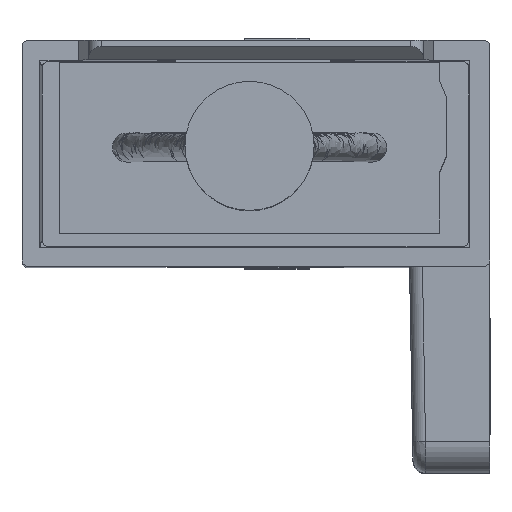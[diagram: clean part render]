
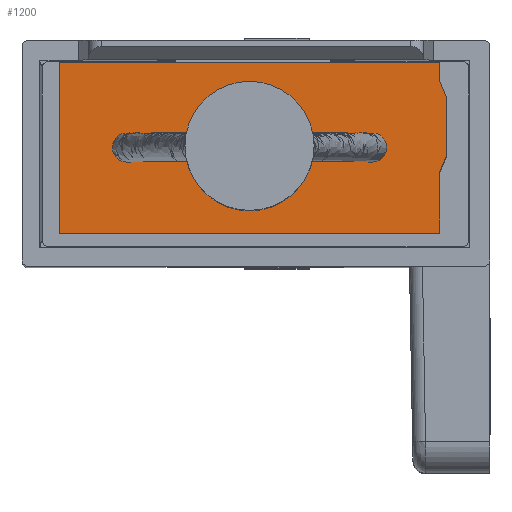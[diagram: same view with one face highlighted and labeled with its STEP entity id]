
A CAD part, top view. The second image highlights one B-rep face of the part: STEP entity #1200.
In plain terms, the highlighted planar face has unit normal (0, 0, 1).
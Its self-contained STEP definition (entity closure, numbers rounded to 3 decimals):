
#107=(
BOUNDED_CURVE()
B_SPLINE_CURVE(3,(#16098,#16099,#16100,#16101,#16102,#16103,#16104),
 .UNSPECIFIED.,.T.,.F.)
B_SPLINE_CURVE_WITH_KNOTS((1,3,3,3,1),(-0.5,0.,0.5,1.,1.5),
 .UNSPECIFIED.)
CURVE()
GEOMETRIC_REPRESENTATION_ITEM()
RATIONAL_B_SPLINE_CURVE((1.,0.333,0.333,1.,0.333,
0.333,1.))
REPRESENTATION_ITEM('')
);
#108=(
BOUNDED_CURVE()
B_SPLINE_CURVE(3,(#16124,#16125,#16126,#16127,#16128,#16129,#16130),
 .UNSPECIFIED.,.T.,.F.)
B_SPLINE_CURVE_WITH_KNOTS((1,3,3,3,1),(-0.5,0.,0.5,1.,1.5),
 .UNSPECIFIED.)
CURVE()
GEOMETRIC_REPRESENTATION_ITEM()
RATIONAL_B_SPLINE_CURVE((1.,0.333,0.333,1.,0.333,
0.333,1.))
REPRESENTATION_ITEM('')
);
#109=(
BOUNDED_CURVE()
B_SPLINE_CURVE(3,(#16132,#16133,#16134,#16135,#16136,#16137,#16138),
 .UNSPECIFIED.,.T.,.F.)
B_SPLINE_CURVE_WITH_KNOTS((1,3,3,3,1),(-0.5,0.,0.5,1.,1.5),
 .UNSPECIFIED.)
CURVE()
GEOMETRIC_REPRESENTATION_ITEM()
RATIONAL_B_SPLINE_CURVE((1.,0.333,0.333,1.,0.333,
0.333,1.))
REPRESENTATION_ITEM('')
);
#1200=ADVANCED_FACE('',(#1976,#1977,#1978,#1979,#1980),#1647,.T.);
#1647=PLANE('',#10814);
#1854=CIRCLE('',#10813,0.45);
#1976=FACE_BOUND('',#2534,.T.);
#1977=FACE_BOUND('',#2535,.T.);
#1978=FACE_BOUND('',#2536,.T.);
#1979=FACE_BOUND('',#2537,.T.);
#1980=FACE_BOUND('',#2538,.T.);
#2534=EDGE_LOOP('',(#5097));
#2535=EDGE_LOOP('',(#5098));
#2536=EDGE_LOOP('',(#5099,#5100,#5101,#5102,#5103,#5104,#5105,#5106));
#2537=EDGE_LOOP('',(#5107));
#2538=EDGE_LOOP('',(#5108));
#5097=ORIENTED_EDGE('',*,*,#7598,.F.);
#5098=ORIENTED_EDGE('',*,*,#7599,.F.);
#5099=ORIENTED_EDGE('',*,*,#7600,.F.);
#5100=ORIENTED_EDGE('',*,*,#7601,.F.);
#5101=ORIENTED_EDGE('',*,*,#7602,.F.);
#5102=ORIENTED_EDGE('',*,*,#7603,.F.);
#5103=ORIENTED_EDGE('',*,*,#7604,.F.);
#5104=ORIENTED_EDGE('',*,*,#7605,.F.);
#5105=ORIENTED_EDGE('',*,*,#7606,.F.);
#5106=ORIENTED_EDGE('',*,*,#7607,.F.);
#5107=ORIENTED_EDGE('',*,*,#7608,.F.);
#5108=ORIENTED_EDGE('',*,*,#7609,.F.);
#6248=VERTEX_POINT('',#16105);
#6249=VERTEX_POINT('',#16107);
#6250=VERTEX_POINT('',#16109);
#6251=VERTEX_POINT('',#16110);
#6252=VERTEX_POINT('',#16112);
#6253=VERTEX_POINT('',#16114);
#6254=VERTEX_POINT('',#16116);
#6255=VERTEX_POINT('',#16118);
#6256=VERTEX_POINT('',#16120);
#6257=VERTEX_POINT('',#16122);
#6258=VERTEX_POINT('',#16131);
#6259=VERTEX_POINT('',#16139);
#7598=EDGE_CURVE('',#6248,#6248,#107,.T.);
#7599=EDGE_CURVE('',#6249,#6249,#1854,.T.);
#7600=EDGE_CURVE('',#6250,#6251,#8819,.T.);
#7601=EDGE_CURVE('',#6252,#6250,#8820,.T.);
#7602=EDGE_CURVE('',#6253,#6252,#8821,.T.);
#7603=EDGE_CURVE('',#6254,#6253,#8822,.T.);
#7604=EDGE_CURVE('',#6255,#6254,#8823,.T.);
#7605=EDGE_CURVE('',#6256,#6255,#8824,.T.);
#7606=EDGE_CURVE('',#6257,#6256,#8825,.T.);
#7607=EDGE_CURVE('',#6251,#6257,#8826,.T.);
#7608=EDGE_CURVE('',#6258,#6258,#108,.T.);
#7609=EDGE_CURVE('',#6259,#6259,#109,.T.);
#8819=LINE('',#16108,#10026);
#8820=LINE('',#16111,#10027);
#8821=LINE('',#16113,#10028);
#8822=LINE('',#16115,#10029);
#8823=LINE('',#16117,#10030);
#8824=LINE('',#16119,#10031);
#8825=LINE('',#16121,#10032);
#8826=LINE('',#16123,#10033);
#10026=VECTOR('',#13215,1.);
#10027=VECTOR('',#13216,1.);
#10028=VECTOR('',#13217,1.);
#10029=VECTOR('',#13218,1.);
#10030=VECTOR('',#13219,1.);
#10031=VECTOR('',#13220,1.);
#10032=VECTOR('',#13221,1.);
#10033=VECTOR('',#13222,1.);
#10813=AXIS2_PLACEMENT_3D('',#16106,#13213,#13214);
#10814=AXIS2_PLACEMENT_3D('',#16140,#13223,#13224);
#13213=DIRECTION('',(0.,0.,1.));
#13214=DIRECTION('',(0.,-1.,0.));
#13215=DIRECTION('',(-1.,0.,0.));
#13216=DIRECTION('',(0.,-1.,0.));
#13217=DIRECTION('',(-0.371,-0.928,0.));
#13218=DIRECTION('',(0.,-1.,0.));
#13219=DIRECTION('',(0.371,-0.928,0.));
#13220=DIRECTION('',(0.,-1.,0.));
#13221=DIRECTION('',(1.,0.,0.));
#13222=DIRECTION('',(0.,1.,0.));
#13223=DIRECTION('',(0.,0.,1.));
#13224=DIRECTION('',(0.,-1.,0.));
#16098=CARTESIAN_POINT('',(-38.05,-3.6,31.7));
#16099=CARTESIAN_POINT('',(-37.15,-3.6,31.7));
#16100=CARTESIAN_POINT('',(-37.15,-2.7,31.7));
#16101=CARTESIAN_POINT('',(-38.05,-2.7,31.7));
#16102=CARTESIAN_POINT('',(-38.95,-2.7,31.7));
#16103=CARTESIAN_POINT('',(-38.95,-3.6,31.7));
#16104=CARTESIAN_POINT('',(-38.05,-3.6,31.7));
#16105=CARTESIAN_POINT('',(-38.05,-3.6,31.7));
#16106=CARTESIAN_POINT('',(-40.35,-3.15,31.7));
#16107=CARTESIAN_POINT('',(-40.35,-3.6,31.7));
#16108=CARTESIAN_POINT('',(-42.45,-5.8,31.7));
#16109=CARTESIAN_POINT('',(-30.65,-5.8,31.7));
#16110=CARTESIAN_POINT('',(-42.45,-5.8,31.7));
#16111=CARTESIAN_POINT('',(-30.65,-5.8,31.7));
#16112=CARTESIAN_POINT('',(-30.65,-3.9,31.7));
#16113=CARTESIAN_POINT('',(-30.45,-3.4,31.7));
#16114=CARTESIAN_POINT('',(-30.45,-3.4,31.7));
#16115=CARTESIAN_POINT('',(-30.45,-3.4,31.7));
#16116=CARTESIAN_POINT('',(-30.45,-1.6,31.7));
#16117=CARTESIAN_POINT('',(-30.45,-1.6,31.7));
#16118=CARTESIAN_POINT('',(-30.65,-1.1,31.7));
#16119=CARTESIAN_POINT('',(-30.65,-1.1,31.7));
#16120=CARTESIAN_POINT('',(-30.65,-0.5,31.7));
#16121=CARTESIAN_POINT('',(-42.45,-0.5,31.7));
#16122=CARTESIAN_POINT('',(-42.45,-0.5,31.7));
#16123=CARTESIAN_POINT('',(-42.45,-5.8,31.7));
#16124=CARTESIAN_POINT('',(-32.75,-3.6,31.7));
#16125=CARTESIAN_POINT('',(-31.85,-3.6,31.7));
#16126=CARTESIAN_POINT('',(-31.85,-2.7,31.7));
#16127=CARTESIAN_POINT('',(-32.75,-2.7,31.7));
#16128=CARTESIAN_POINT('',(-33.65,-2.7,31.7));
#16129=CARTESIAN_POINT('',(-33.65,-3.6,31.7));
#16130=CARTESIAN_POINT('',(-32.75,-3.6,31.7));
#16131=CARTESIAN_POINT('',(-32.75,-3.6,31.7));
#16132=CARTESIAN_POINT('',(-35.05,-3.6,31.7));
#16133=CARTESIAN_POINT('',(-34.15,-3.6,31.7));
#16134=CARTESIAN_POINT('',(-34.15,-2.7,31.7));
#16135=CARTESIAN_POINT('',(-35.05,-2.7,31.7));
#16136=CARTESIAN_POINT('',(-35.95,-2.7,31.7));
#16137=CARTESIAN_POINT('',(-35.95,-3.6,31.7));
#16138=CARTESIAN_POINT('',(-35.05,-3.6,31.7));
#16139=CARTESIAN_POINT('',(-35.05,-3.6,31.7));
#16140=CARTESIAN_POINT('',(-42.45,-5.8,31.7));
